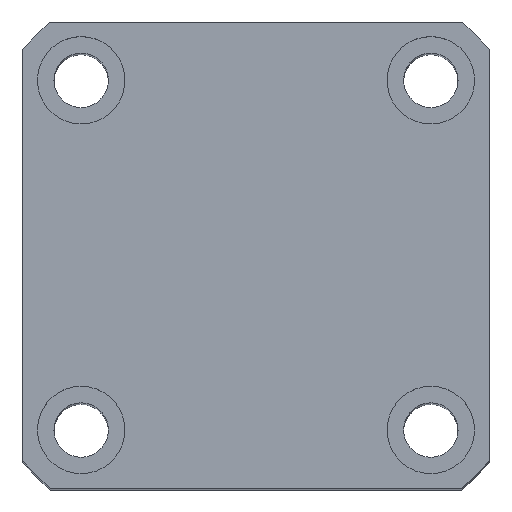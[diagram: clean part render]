
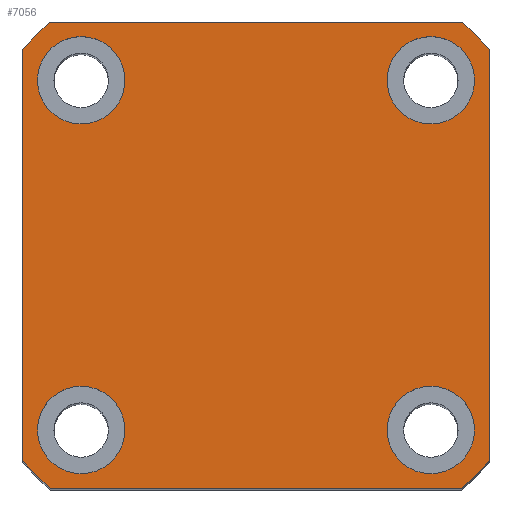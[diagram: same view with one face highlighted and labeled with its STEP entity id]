
A CAD part, top view. The second image highlights one B-rep face of the part: STEP entity #7056.
In plain terms, the highlighted planar face has unit normal (0, 0, 1) as drawn and (1, 0, 0) by its records, which use the part's own axes.
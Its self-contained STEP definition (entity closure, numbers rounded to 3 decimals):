
#18 = EDGE_CURVE ( 'NONE', #9515, #4852, #5054, .T. ) ;
#85 = VECTOR ( 'NONE', #4088, 1000. ) ;
#141 = VERTEX_POINT ( 'NONE', #8247 ) ;
#194 = EDGE_CURVE ( 'NONE', #8490, #10671, #4568, .T. ) ;
#399 = EDGE_CURVE ( 'NONE', #7993, #9422, #4303, .T. ) ;
#407 = AXIS2_PLACEMENT_3D ( 'NONE', #4160, #9996, #4969 ) ;
#416 = EDGE_CURVE ( 'NONE', #141, #2267, #10692, .T. ) ;
#464 = ORIENTED_EDGE ( 'NONE', *, *, #1210, .T. ) ;
#514 = DIRECTION ( 'NONE',  ( 0., -1., 0. ) ) ;
#692 = DIRECTION ( 'NONE',  ( 1., 0., 0. ) ) ;
#693 = VECTOR ( 'NONE', #8227, 1000. ) ;
#729 = ORIENTED_EDGE ( 'NONE', *, *, #4509, .F. ) ;
#811 = CIRCLE ( 'NONE', #3671, 4.5 ) ;
#963 = FACE_BOUND ( 'NONE', #3923, .T. ) ;
#1060 = DIRECTION ( 'NONE',  ( 1., 0., 0. ) ) ;
#1210 = EDGE_CURVE ( 'NONE', #8893, #3298, #2486, .T. ) ;
#1271 = EDGE_CURVE ( 'NONE', #6956, #8893, #10568, .T. ) ;
#1492 = DIRECTION ( 'NONE',  ( 1., 0., 0. ) ) ;
#1518 = DIRECTION ( 'NONE',  ( 1., 0., 0. ) ) ;
#1522 = ORIENTED_EDGE ( 'NONE', *, *, #2820, .T. ) ;
#1573 = DIRECTION ( 'NONE',  ( 0., 0., -1. ) ) ;
#1621 = AXIS2_PLACEMENT_3D ( 'NONE', #7740, #7776, #7808 ) ;
#1643 = CARTESIAN_POINT ( 'NONE',  ( 105., -24., 24. ) ) ;
#1677 = DIRECTION ( 'NONE',  ( 1., 0., 0. ) ) ;
#1708 = CARTESIAN_POINT ( 'NONE',  ( 105., 0., 0. ) ) ;
#1723 = DIRECTION ( 'NONE',  ( 0., 0., -1. ) ) ;
#1764 = EDGE_LOOP ( 'NONE', ( #729, #3977 ) ) ;
#1800 = EDGE_LOOP ( 'NONE', ( #9635, #7247, #464, #4702, #8358, #10357, #1522, #7341 ) ) ;
#1829 = DIRECTION ( 'NONE',  ( 0., 0., -1. ) ) ;
#1901 = PLANE ( 'NONE',  #6104 ) ;
#2021 = ORIENTED_EDGE ( 'NONE', *, *, #8945, .F. ) ;
#2181 = AXIS2_PLACEMENT_3D ( 'NONE', #4850, #692, #9757 ) ;
#2267 = VERTEX_POINT ( 'NONE', #5221 ) ;
#2287 = EDGE_CURVE ( 'NONE', #9422, #7993, #4028, .T. ) ;
#2318 = CARTESIAN_POINT ( 'NONE',  ( 105., -24., -21.166 ) ) ;
#2438 = CIRCLE ( 'NONE', #407, 32. ) ;
#2486 = LINE ( 'NONE', #4042, #85 ) ;
#2520 = AXIS2_PLACEMENT_3D ( 'NONE', #3225, #3179, #3106 ) ;
#2628 = CIRCLE ( 'NONE', #7806, 4.5 ) ;
#2650 = CARTESIAN_POINT ( 'NONE',  ( 105., -18., -13.5 ) ) ;
#2820 = EDGE_CURVE ( 'NONE', #7593, #4947, #9084, .T. ) ;
#2891 = CARTESIAN_POINT ( 'NONE',  ( 105., -18., 22.5 ) ) ;
#3106 = DIRECTION ( 'NONE',  ( 0., 0., -1. ) ) ;
#3126 = CIRCLE ( 'NONE', #5526, 32. ) ;
#3179 = DIRECTION ( 'NONE',  ( 1., 0., 0. ) ) ;
#3225 = CARTESIAN_POINT ( 'NONE',  ( 105., 0., 0. ) ) ;
#3233 = CARTESIAN_POINT ( 'NONE',  ( 105., 21.166, 24. ) ) ;
#3298 = VERTEX_POINT ( 'NONE', #7821 ) ;
#3334 = DIRECTION ( 'NONE',  ( 0., 0., -1. ) ) ;
#3394 = FACE_BOUND ( 'NONE', #7707, .T. ) ;
#3447 = DIRECTION ( 'NONE',  ( 1., 0., 0. ) ) ;
#3506 = ORIENTED_EDGE ( 'NONE', *, *, #2287, .F. ) ;
#3549 = DIRECTION ( 'NONE',  ( 1., 0., 0. ) ) ;
#3646 = VERTEX_POINT ( 'NONE', #9957 ) ;
#3671 = AXIS2_PLACEMENT_3D ( 'NONE', #6422, #1518, #7287 ) ;
#3700 = CARTESIAN_POINT ( 'NONE',  ( 105., -21.166, 24. ) ) ;
#3708 = CARTESIAN_POINT ( 'NONE',  ( 105., 18., -18. ) ) ;
#3771 = CIRCLE ( 'NONE', #4359, 4.5 ) ;
#3775 = DIRECTION ( 'NONE',  ( 1., 0., 0. ) ) ;
#3880 = CARTESIAN_POINT ( 'NONE',  ( 105., 21.166, -24. ) ) ;
#3923 = EDGE_LOOP ( 'NONE', ( #5477, #3506 ) ) ;
#3977 = ORIENTED_EDGE ( 'NONE', *, *, #194, .F. ) ;
#4028 = CIRCLE ( 'NONE', #8969, 4.5 ) ;
#4042 = CARTESIAN_POINT ( 'NONE',  ( 105., 24., 24. ) ) ;
#4088 = DIRECTION ( 'NONE',  ( 0., 0., 1. ) ) ;
#4160 = CARTESIAN_POINT ( 'NONE',  ( 105., 0., 0. ) ) ;
#4208 = CARTESIAN_POINT ( 'NONE',  ( 105., 24., -21.166 ) ) ;
#4299 = EDGE_CURVE ( 'NONE', #6666, #7593, #3126, .T. ) ;
#4303 = CIRCLE ( 'NONE', #5467, 4.5 ) ;
#4359 = AXIS2_PLACEMENT_3D ( 'NONE', #8416, #3447, #9264 ) ;
#4366 = CARTESIAN_POINT ( 'NONE',  ( 105., 18., -18. ) ) ;
#4509 = EDGE_CURVE ( 'NONE', #10671, #8490, #2628, .T. ) ;
#4568 = CIRCLE ( 'NONE', #2181, 4.5 ) ;
#4617 = CARTESIAN_POINT ( 'NONE',  ( 105., 18., 18. ) ) ;
#4672 = VECTOR ( 'NONE', #514, 1000. ) ;
#4702 = ORIENTED_EDGE ( 'NONE', *, *, #8649, .T. ) ;
#4737 = DIRECTION ( 'NONE',  ( 1., 0., 0. ) ) ;
#4850 = CARTESIAN_POINT ( 'NONE',  ( 105., -18., 18. ) ) ;
#4852 = VERTEX_POINT ( 'NONE', #6397 ) ;
#4947 = VERTEX_POINT ( 'NONE', #2318 ) ;
#4969 = DIRECTION ( 'NONE',  ( 0., 0., -1. ) ) ;
#5038 = LINE ( 'NONE', #7380, #693 ) ;
#5054 = CIRCLE ( 'NONE', #1621, 4.5 ) ;
#5221 = CARTESIAN_POINT ( 'NONE',  ( 105., 18., 13.5 ) ) ;
#5324 = CARTESIAN_POINT ( 'NONE',  ( 105., -18., 13.5 ) ) ;
#5391 = CARTESIAN_POINT ( 'NONE',  ( 105., 24., 24. ) ) ;
#5467 = AXIS2_PLACEMENT_3D ( 'NONE', #3708, #3775, #3334 ) ;
#5477 = ORIENTED_EDGE ( 'NONE', *, *, #399, .F. ) ;
#5526 = AXIS2_PLACEMENT_3D ( 'NONE', #1708, #1677, #1829 ) ;
#5652 = CARTESIAN_POINT ( 'NONE',  ( 105., 18., -13.5 ) ) ;
#5927 = CARTESIAN_POINT ( 'NONE',  ( 105., -18., 18. ) ) ;
#5978 = DIRECTION ( 'NONE',  ( 1., 0., 0. ) ) ;
#6001 = AXIS2_PLACEMENT_3D ( 'NONE', #4617, #1492, #1573 ) ;
#6104 = AXIS2_PLACEMENT_3D ( 'NONE', #8932, #3549, #9796 ) ;
#6184 = AXIS2_PLACEMENT_3D ( 'NONE', #9749, #4737, #10601 ) ;
#6397 = CARTESIAN_POINT ( 'NONE',  ( 105., -18., -22.5 ) ) ;
#6422 = CARTESIAN_POINT ( 'NONE',  ( 105., 18., 18. ) ) ;
#6618 = EDGE_LOOP ( 'NONE', ( #10004, #8102 ) ) ;
#6666 = VERTEX_POINT ( 'NONE', #3700 ) ;
#6717 = ORIENTED_EDGE ( 'NONE', *, *, #18, .F. ) ;
#6804 = DIRECTION ( 'NONE',  ( 0., 0., -1. ) ) ;
#6865 = VECTOR ( 'NONE', #1723, 1000. ) ;
#6956 = VERTEX_POINT ( 'NONE', #3880 ) ;
#6990 = CIRCLE ( 'NONE', #6184, 32. ) ;
#7056 = ADVANCED_FACE ( 'NONE', ( #3394, #8055, #963, #7260, #9533 ), #1901, .T. ) ;
#7247 = ORIENTED_EDGE ( 'NONE', *, *, #1271, .T. ) ;
#7260 = FACE_BOUND ( 'NONE', #6618, .T. ) ;
#7287 = DIRECTION ( 'NONE',  ( 0., 0., -1. ) ) ;
#7341 = ORIENTED_EDGE ( 'NONE', *, *, #10364, .T. ) ;
#7380 = CARTESIAN_POINT ( 'NONE',  ( 105., 24., -24. ) ) ;
#7410 = EDGE_CURVE ( 'NONE', #10711, #6666, #9090, .T. ) ;
#7593 = VERTEX_POINT ( 'NONE', #9025 ) ;
#7645 = EDGE_CURVE ( 'NONE', #3646, #6956, #5038, .T. ) ;
#7707 = EDGE_LOOP ( 'NONE', ( #2021, #6717 ) ) ;
#7740 = CARTESIAN_POINT ( 'NONE',  ( 105., -18., -18. ) ) ;
#7776 = DIRECTION ( 'NONE',  ( 1., 0., 0. ) ) ;
#7806 = AXIS2_PLACEMENT_3D ( 'NONE', #5927, #1060, #6804 ) ;
#7808 = DIRECTION ( 'NONE',  ( 0., 0., -1. ) ) ;
#7821 = CARTESIAN_POINT ( 'NONE',  ( 105., 24., 21.166 ) ) ;
#7993 = VERTEX_POINT ( 'NONE', #8586 ) ;
#8055 = FACE_BOUND ( 'NONE', #1764, .T. ) ;
#8098 = EDGE_CURVE ( 'NONE', #2267, #141, #811, .T. ) ;
#8102 = ORIENTED_EDGE ( 'NONE', *, *, #416, .F. ) ;
#8227 = DIRECTION ( 'NONE',  ( 0., 1., 0. ) ) ;
#8247 = CARTESIAN_POINT ( 'NONE',  ( 105., 18., 22.5 ) ) ;
#8254 = DIRECTION ( 'NONE',  ( 0., 0., -1. ) ) ;
#8358 = ORIENTED_EDGE ( 'NONE', *, *, #7410, .T. ) ;
#8416 = CARTESIAN_POINT ( 'NONE',  ( 105., -18., -18. ) ) ;
#8490 = VERTEX_POINT ( 'NONE', #2891 ) ;
#8586 = CARTESIAN_POINT ( 'NONE',  ( 105., 18., -22.5 ) ) ;
#8649 = EDGE_CURVE ( 'NONE', #3298, #10711, #6990, .T. ) ;
#8893 = VERTEX_POINT ( 'NONE', #4208 ) ;
#8932 = CARTESIAN_POINT ( 'NONE',  ( 105., 0., 0. ) ) ;
#8945 = EDGE_CURVE ( 'NONE', #4852, #9515, #3771, .T. ) ;
#8969 = AXIS2_PLACEMENT_3D ( 'NONE', #4366, #5978, #8254 ) ;
#9025 = CARTESIAN_POINT ( 'NONE',  ( 105., -24., 21.166 ) ) ;
#9084 = LINE ( 'NONE', #1643, #6865 ) ;
#9090 = LINE ( 'NONE', #5391, #4672 ) ;
#9264 = DIRECTION ( 'NONE',  ( 0., 0., -1. ) ) ;
#9422 = VERTEX_POINT ( 'NONE', #5652 ) ;
#9515 = VERTEX_POINT ( 'NONE', #2650 ) ;
#9533 = FACE_OUTER_BOUND ( 'NONE', #1800, .T. ) ;
#9635 = ORIENTED_EDGE ( 'NONE', *, *, #7645, .T. ) ;
#9749 = CARTESIAN_POINT ( 'NONE',  ( 105., 0., 0. ) ) ;
#9757 = DIRECTION ( 'NONE',  ( 0., 0., -1. ) ) ;
#9796 = DIRECTION ( 'NONE',  ( 0., 0., -1. ) ) ;
#9957 = CARTESIAN_POINT ( 'NONE',  ( 105., -21.166, -24. ) ) ;
#9996 = DIRECTION ( 'NONE',  ( 1., 0., 0. ) ) ;
#10004 = ORIENTED_EDGE ( 'NONE', *, *, #8098, .F. ) ;
#10357 = ORIENTED_EDGE ( 'NONE', *, *, #4299, .T. ) ;
#10364 = EDGE_CURVE ( 'NONE', #4947, #3646, #2438, .T. ) ;
#10568 = CIRCLE ( 'NONE', #2520, 32. ) ;
#10601 = DIRECTION ( 'NONE',  ( 0., 0., -1. ) ) ;
#10671 = VERTEX_POINT ( 'NONE', #5324 ) ;
#10692 = CIRCLE ( 'NONE', #6001, 4.5 ) ;
#10711 = VERTEX_POINT ( 'NONE', #3233 ) ;
